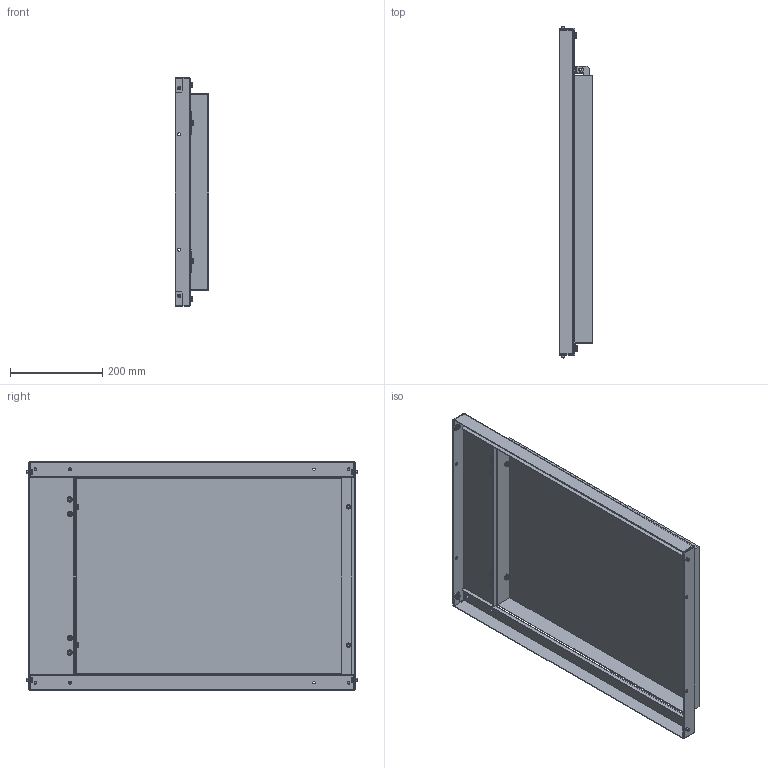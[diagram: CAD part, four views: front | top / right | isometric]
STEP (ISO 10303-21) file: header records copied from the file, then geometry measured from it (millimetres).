
FILE_DESCRIPTION (( 'STEP AP214' ), '1' );
FILE_NAME ('FO-00-MPR-050-080 Ïàíåëü ìîíòàæíàÿ ïîâîðîòíàÿ 500õ800 ìì.STEP', '2025-08-20T07:27:03', ( '' ), ( '' ), 'SwSTEP 2.0', 'SolidWorks 2023', '' );
FILE_SCHEMA (( 'AUTOMOTIVE_DESIGN' ));
Length unit declared in the file: millimetre
Products named in the file (3): Панель монтажная поворотная 500х800 мм; FO-00-MPR-050-080 Панель монтажная поворотная 500х800 мм; Панель монтажная 500×800 мм
Assembly tree (2 placements, depth 2):
  FO-00-MPR-050-080 Панель монтажная поворотная 500х800 мм
    Панель монтажная поворотная 500х800 мм
    Панель монтажная 500×800 мм
Bounding box: 73 x 718.4 x 496 mm (x, y, z)
Volume: 1037699.4 mm3; surface area: 1083751.6 mm2
Topology: 2 solids, 18 shells, 896 faces, 2242 edges, 1448 vertices
Faces by surface type: cylinder 458, plane 290, cone 76, torus 72
Entity records: 27634 total; most frequent: DIRECTION 5176, CARTESIAN_POINT 4939, ORIENTED_EDGE 4484, EDGE_CURVE 2242, AXIS2_PLACEMENT_3D 2049, VERTEX_POINT 1448, CIRCLE 1148, VECTOR 1078
